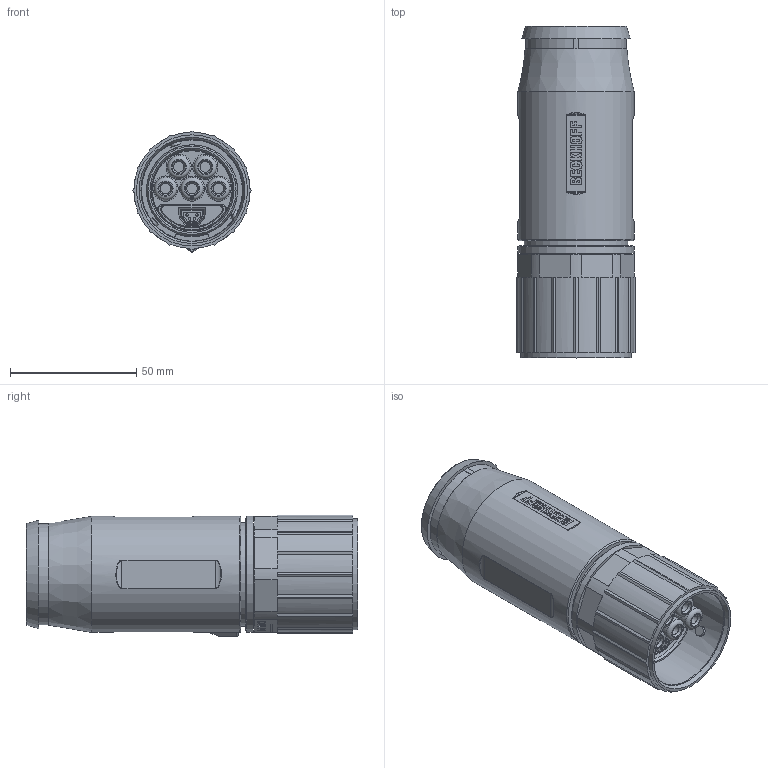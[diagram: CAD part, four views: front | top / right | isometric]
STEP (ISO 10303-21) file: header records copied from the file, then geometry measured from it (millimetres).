
FILE_DESCRIPTION(/* description */ (''),/* implementation_level */ '2;1');
FILE_NAME(/* name */ 'X:\0-inventor\0-3d-Teile\PC-Compo\solids\EtherCAT-P_Stecker_Buchsen\0-Ausgabe\B40 ENP und ECP_T0529\59K1A3018_Step.stp',/* time_stamp */ '2019-06-11T15:47:31+02:00',/* author */ ('ChristianKreuzer'),/* organization */ ('Design-AG'),/* preprocessor_version */ 'ST-DEVELOPER v17.2',/* originating_system */ 'Autodesk Inventor 2019',/* authorisation */ '');
FILE_SCHEMA (('AUTOMOTIVE_DESIGN { 1 0 10303 214 3 1 1 }'));
Length unit declared in the file: millimetre
Products named in the file (1): 59K1A3018_Step
Bounding box: 47 x 131.5 x 48.29 mm (x, y, z)
Volume: 180389.7 mm3; surface area: 47255.3 mm2
Topology: 8 solids, 8 shells, 1048 faces, 2826 edges, 1871 vertices
Faces by surface type: plane 778, cylinder 100, bspline 100, cone 45, torus 24, sphere 1
Full cylindrical faces by diameter (mm): 1 x4, 1.3 x1, 1.5 x1, 4 x3, 4.15 x5, 7.175 x5, 9 x5, 25.6 x1, 32 x1, 32.2 x1, 33 x1, 34.2 x1, 36 x1, 36.1 x2, 40 x1, 40.3 x1, 41 x1, 42.6 x1, 44 x1, 46 x2
Entity records: 36868 total; most frequent: CARTESIAN_POINT 9691, ORIENTED_EDGE 5648, DIRECTION 4927, EDGE_CURVE 2824, LINE 2177, VECTOR 2177, VERTEX_POINT 1871, AXIS2_PLACEMENT_3D 1375
